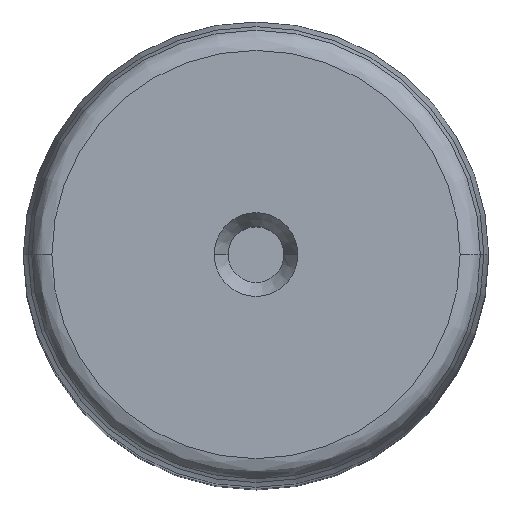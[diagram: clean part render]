
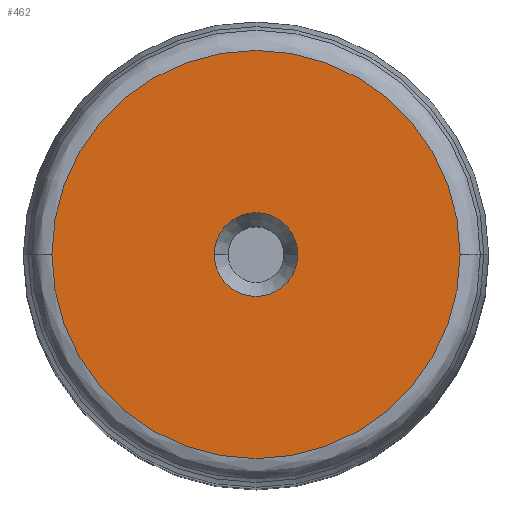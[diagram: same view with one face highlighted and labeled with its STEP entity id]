
A CAD part, top view. The second image highlights one B-rep face of the part: STEP entity #462.
In plain terms, the highlighted planar face has unit normal (0, 0, 1).
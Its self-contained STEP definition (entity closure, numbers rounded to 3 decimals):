
#97=VERTEX_POINT(' ',#98);
#98=CARTESIAN_POINT('',(-9.,0.,350.));
#99=VERTEX_POINT(' ',#100);
#100=CARTESIAN_POINT('',(9.,0.,350.));
#101=VERTEX_POINT(' ',#102);
#102=CARTESIAN_POINT('',(-43.868,0.,350.));
#103=VERTEX_POINT(' ',#104);
#104=CARTESIAN_POINT('',(43.868,0.,350.));
#180=CIRCLE('',#181,9.);
#181=AXIS2_PLACEMENT_3D('',#182,#183,#184);
#182=CARTESIAN_POINT('',(0.,0.,350.));
#183=DIRECTION('',(0.,0.,-1.));
#184=DIRECTION('',(0.,1.,0.));
#185=EDGE_CURVE(' ',#99,#97,#180,.T.);
#191=CIRCLE('',#192,9.);
#192=AXIS2_PLACEMENT_3D('',#193,#194,#195);
#193=CARTESIAN_POINT('',(0.,0.,350.));
#194=DIRECTION('',(0.,0.,-1.));
#195=DIRECTION('',(0.,-1.,0.));
#196=EDGE_CURVE(' ',#97,#99,#191,.T.);
#197=CIRCLE('',#198,43.868);
#198=AXIS2_PLACEMENT_3D('',#199,#200,#201);
#199=CARTESIAN_POINT('',(0.,0.,350.));
#200=DIRECTION('',(0.,0.,-1.));
#201=DIRECTION('',(0.,1.,0.));
#202=EDGE_CURVE(' ',#103,#101,#197,.T.);
#203=CIRCLE('',#204,43.868);
#204=AXIS2_PLACEMENT_3D('',#205,#206,#207);
#205=CARTESIAN_POINT('',(0.,0.,350.));
#206=DIRECTION('',(0.,0.,-1.));
#207=DIRECTION('',(0.,-1.,0.));
#208=EDGE_CURVE(' ',#101,#103,#203,.T.);
#449=ORIENTED_EDGE('',*,*,#202,.F.);
#450=ORIENTED_EDGE('',*,*,#208,.F.);
#451=EDGE_LOOP('',(#449,#450));
#452=FACE_OUTER_BOUND('',#451,.T.);
#453=ORIENTED_EDGE('',*,*,#196,.T.);
#454=ORIENTED_EDGE('',*,*,#185,.T.);
#455=EDGE_LOOP('',(#453,#454));
#456=FACE_BOUND('',#455,.T.);
#457=PLANE('',#458);
#458=AXIS2_PLACEMENT_3D('',#459,#460,#461);
#459=CARTESIAN_POINT('',(0.,0.,350.));
#460=DIRECTION('',(0.,0.,1.));
#461=DIRECTION('',(0.,1.,0.));
#462=ADVANCED_FACE('',(#452,#456),#457,.T.);
